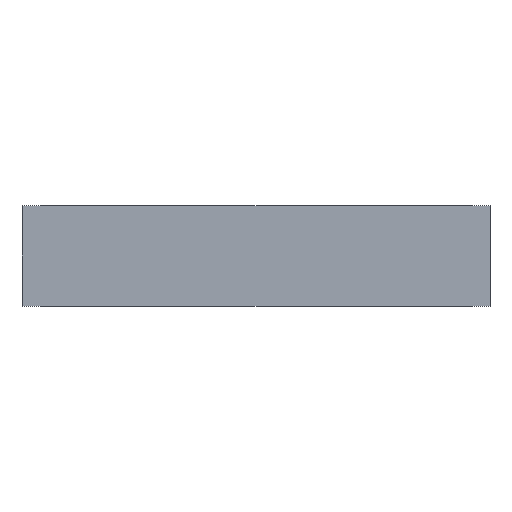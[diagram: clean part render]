
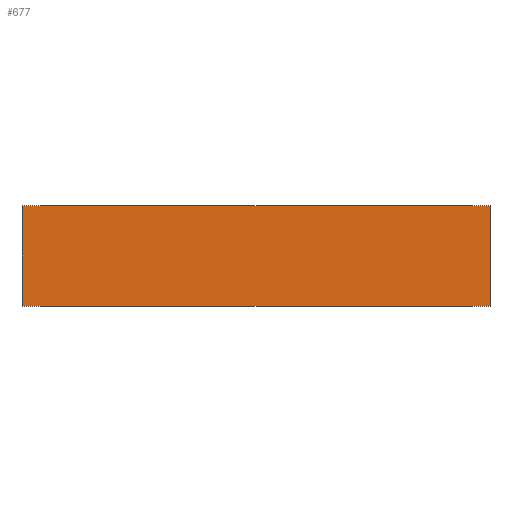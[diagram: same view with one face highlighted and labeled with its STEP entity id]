
A CAD part, front view. The second image highlights one B-rep face of the part: STEP entity #677.
In plain terms, the highlighted planar face has unit normal (0, -1, 0).
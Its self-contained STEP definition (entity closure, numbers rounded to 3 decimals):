
#4 = LINE ( 'NONE', #785, #455 ) ;
#20 = VECTOR ( 'NONE', #766, 1000. ) ;
#21 = LINE ( 'NONE', #765, #20 ) ;
#177 = VECTOR ( 'NONE', #914, 1000. ) ;
#270 = ORIENTED_EDGE ( 'NONE', *, *, #620, .F. ) ;
#271 = ORIENTED_EDGE ( 'NONE', *, *, #597, .F. ) ;
#272 = ORIENTED_EDGE ( 'NONE', *, *, #523, .T. ) ;
#290 = LINE ( 'NONE', #912, #177 ) ;
#339 = ORIENTED_EDGE ( 'NONE', *, *, #623, .T. ) ;
#377 = EDGE_LOOP ( 'NONE', ( #339, #270, #271, #272 ) ) ;
#455 = VECTOR ( 'NONE', #813, 1000. ) ;
#461 = LINE ( 'NONE', #818, #462 ) ;
#462 = VECTOR ( 'NONE', #819, 1000. ) ;
#479 = FACE_OUTER_BOUND ( 'NONE', #377, .T. ) ;
#523 = EDGE_CURVE ( 'NONE', #897, #900, #290, .T. ) ;
#597 = EDGE_CURVE ( 'NONE', #897, #884, #21, .T. ) ;
#620 = EDGE_CURVE ( 'NONE', #884, #899, #4, .T. ) ;
#623 = EDGE_CURVE ( 'NONE', #900, #899, #461, .T. ) ;
#634 = AXIS2_PLACEMENT_3D ( 'NONE', #1017, #1023, #1024 ) ;
#677 = ADVANCED_FACE ( 'NONE', ( #479 ), #1014, .F. ) ;
#765 = CARTESIAN_POINT ( 'NONE',  ( -151., 0., 65. ) ) ;
#766 = DIRECTION ( 'NONE',  ( 1., 0., 0. ) ) ;
#785 = CARTESIAN_POINT ( 'NONE',  ( 151., 0., 65. ) ) ;
#813 = DIRECTION ( 'NONE',  ( 0., 0., -1. ) ) ;
#818 = CARTESIAN_POINT ( 'NONE',  ( -151., 0., 0. ) ) ;
#819 = DIRECTION ( 'NONE',  ( 1., 0., 0. ) ) ;
#884 = VERTEX_POINT ( 'NONE', #1154 ) ;
#897 = VERTEX_POINT ( 'NONE', #1167 ) ;
#899 = VERTEX_POINT ( 'NONE', #1169 ) ;
#900 = VERTEX_POINT ( 'NONE', #1170 ) ;
#912 = CARTESIAN_POINT ( 'NONE',  ( -151., 0., 65. ) ) ;
#914 = DIRECTION ( 'NONE',  ( 0., 0., -1. ) ) ;
#1014 = PLANE ( 'NONE',  #634 ) ;
#1017 = CARTESIAN_POINT ( 'NONE',  ( -151., 0., 65. ) ) ;
#1023 = DIRECTION ( 'NONE',  ( 0., 1., 0. ) ) ;
#1024 = DIRECTION ( 'NONE',  ( -1., 0., 0. ) ) ;
#1154 = CARTESIAN_POINT ( 'NONE',  ( 151., 0., 65. ) ) ;
#1167 = CARTESIAN_POINT ( 'NONE',  ( -151., 0., 65. ) ) ;
#1169 = CARTESIAN_POINT ( 'NONE',  ( 151., 0., 0. ) ) ;
#1170 = CARTESIAN_POINT ( 'NONE',  ( -151., 0., 0. ) ) ;
